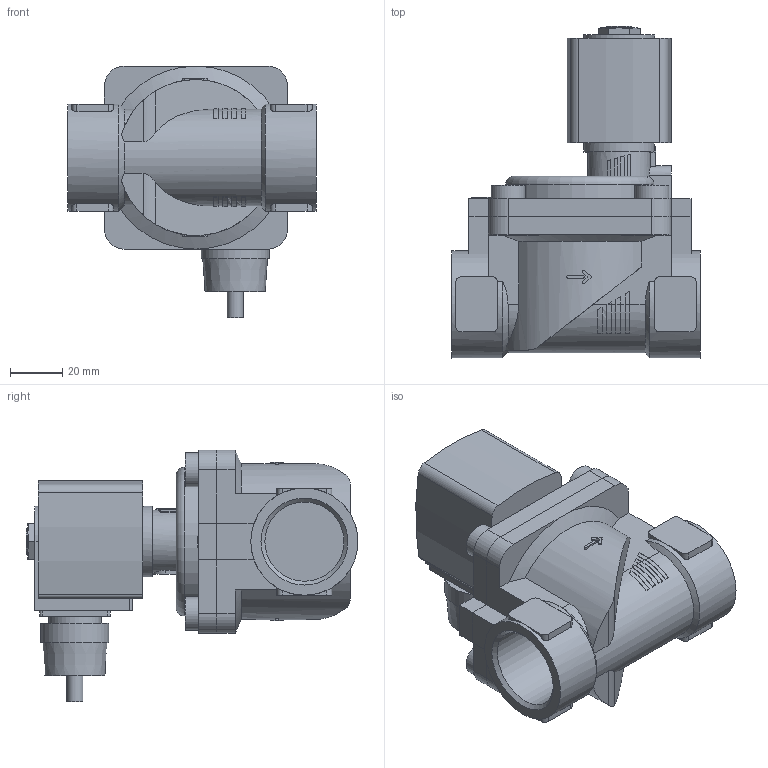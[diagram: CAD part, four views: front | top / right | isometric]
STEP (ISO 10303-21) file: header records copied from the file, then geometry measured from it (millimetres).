
FILE_DESCRIPTION(/* description */ ('STEP AP214'),/* implementation_level */ '2;1');
FILE_NAME(/* name */ '6281-370707-2_2-Way_Solenoid_Valve__Servo-assisted__General_Purpose',/* time_stamp */ '2024-08-24T06:53:45+02:00',/* author */ ('License CC BY-ND 4.0'),/* organization */ ('CADENAS'),/* preprocessor_version */ 'ST-DEVELOPER v19.3',/* originating_system */ 'PARTsolutions',/* authorisation */ ' ');
FILE_SCHEMA (('AUTOMOTIVE_DESIGN {1 0 10303 214 3 1 1}'));
Length unit declared in the file: millimetre
Products named in the file (4): 6281-370707-2/2-Way Solenoid Valve, Servo-assisted, General Purpose; 5281ev250MS2/2-Wege-Magnetventil mit Servomembran-Deckel   ; 6213-25G1MS-Gehaeuse-; AC10ex-6ATEXKabelPlan-Coil
Assembly tree (3 placements, depth 2):
  6281-370707-2/2-Way Solenoid Valve, Servo-assisted, General Purpose
    5281ev250MS2/2-Wege-Magnetventil mit Servomembran-Deckel   
    6213-25G1MS-Gehaeuse-
    AC10ex-6ATEXKabelPlan-Coil
Bounding box: 95 x 127 x 96.3 mm (x, y, z)
Volume: 321977.4 mm3; surface area: 58710.5 mm2
Topology: 3 solids, 3 shells, 296 faces, 787 edges, 519 vertices
Faces by surface type: plane 189, cylinder 93, cone 13, torus 1
Full cylindrical faces by diameter (mm): 6.2 x1, 9.74 x1, 13 x4, 20 x1, 26 x1, 27 x1, 30.291 x2, 41 x2
Entity records: 10132 total; most frequent: CARTESIAN_POINT 1828, DIRECTION 1530, ORIENTED_EDGE 1522, EDGE_CURVE 761, AXIS2_PLACEMENT_3D 536, VERTEX_POINT 511, LINE 458, VECTOR 458
